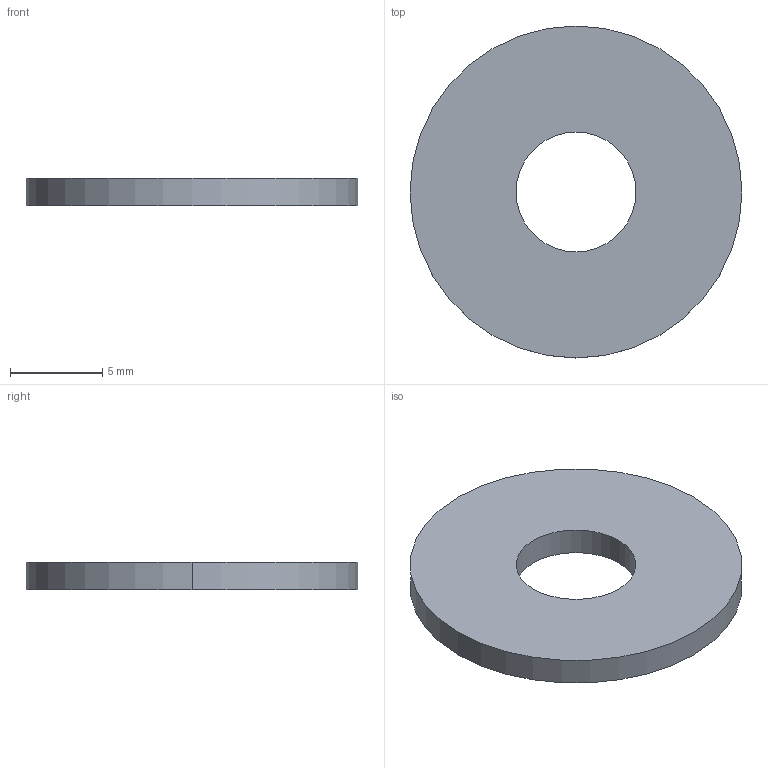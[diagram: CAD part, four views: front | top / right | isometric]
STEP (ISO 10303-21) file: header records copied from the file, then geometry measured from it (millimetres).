
FILE_DESCRIPTION (( 'STEP AP203' ), '1' );
FILE_NAME ('P0333.060-018-A4.step', '2018-12-17T19:07:57', ( '' ), ( '' ), 'SwSTEP 2.0', 'SolidWorks 2017', '' );
FILE_SCHEMA (( 'CONFIG_CONTROL_DESIGN' ));
Length unit declared in the file: millimetre
Products named in the file (1): P0333.060-018-A4
Bounding box: 18 x 18 x 1.5 mm (x, y, z)
Volume: 331.9 mm3; surface area: 558 mm2
Topology: 1 solids, 1 shells, 6 faces, 12 edges, 8 vertices
Faces by surface type: cylinder 4, plane 2
Entity records: 245 total; most frequent: DIRECTION 34, CARTESIAN_POINT 27, ORIENTED_EDGE 24, AXIS2_PLACEMENT_3D 15, EDGE_CURVE 12, PERSON_AND_ORGANIZATION 8, VERTEX_POINT 8, CIRCLE 8
